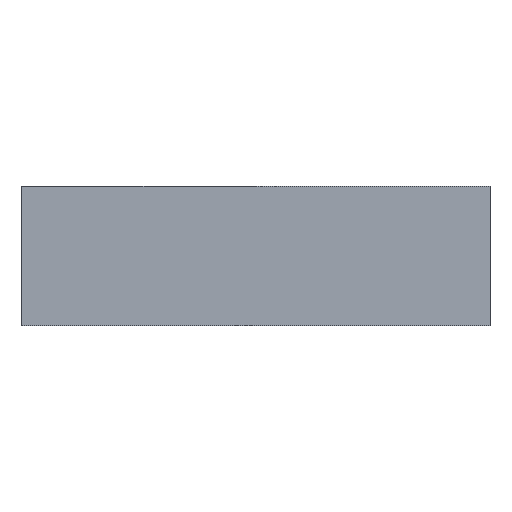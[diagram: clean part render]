
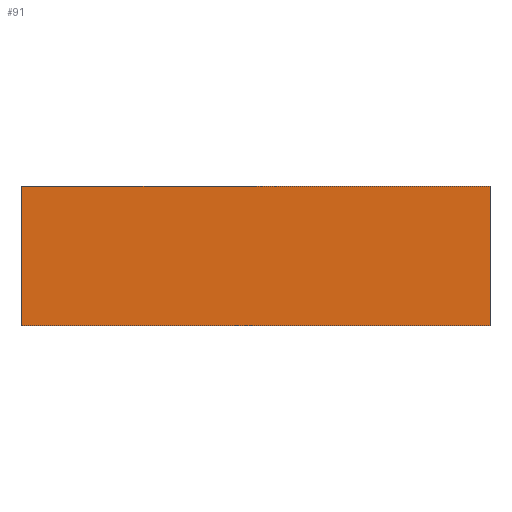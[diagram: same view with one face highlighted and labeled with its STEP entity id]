
A CAD part, front view. The second image highlights one B-rep face of the part: STEP entity #91.
In plain terms, the highlighted planar face has unit normal (0, -1, 0).
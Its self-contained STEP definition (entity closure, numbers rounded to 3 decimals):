
#2 = EDGE_CURVE ( 'NONE', #186, #188, #640, .T. ) ;
#14 = EDGE_CURVE ( 'NONE', #178, #190, #474, .T. ) ;
#32 = EDGE_CURVE ( 'NONE', #186, #178, #642, .T. ) ;
#70 = AXIS2_PLACEMENT_3D ( 'NONE', #185, #187, #189 ) ;
#79 = EDGE_CURVE ( 'NONE', #188, #190, #691, .T. ) ;
#91 = ADVANCED_FACE ( 'NONE', ( #454 ), #176, .F. ) ;
#137 = DIRECTION ( 'NONE',  ( 0., 0., -1. ) ) ;
#176 = PLANE ( 'NONE',  #70 ) ;
#178 = VERTEX_POINT ( 'NONE', #380 ) ;
#185 = CARTESIAN_POINT ( 'NONE',  ( -201., 0., 120. ) ) ;
#186 = VERTEX_POINT ( 'NONE', #386 ) ;
#187 = DIRECTION ( 'NONE',  ( 0., 1., 0. ) ) ;
#188 = VERTEX_POINT ( 'NONE', #389 ) ;
#189 = DIRECTION ( 'NONE',  ( -1., 0., 0. ) ) ;
#190 = VERTEX_POINT ( 'NONE', #388 ) ;
#210 = CARTESIAN_POINT ( 'NONE',  ( -201., 0., 0. ) ) ;
#212 = DIRECTION ( 'NONE',  ( 1., 0., 0. ) ) ;
#221 = DIRECTION ( 'NONE',  ( 0., 0., -1. ) ) ;
#237 = CARTESIAN_POINT ( 'NONE',  ( 201., 0., 120. ) ) ;
#313 = CARTESIAN_POINT ( 'NONE',  ( -201., 0., 120. ) ) ;
#320 = DIRECTION ( 'NONE',  ( 1., 0., 0. ) ) ;
#380 = CARTESIAN_POINT ( 'NONE',  ( 201., 0., 120. ) ) ;
#386 = CARTESIAN_POINT ( 'NONE',  ( -201., 0., 120. ) ) ;
#388 = CARTESIAN_POINT ( 'NONE',  ( 201., 0., 0. ) ) ;
#389 = CARTESIAN_POINT ( 'NONE',  ( -201., 0., 0. ) ) ;
#432 = CARTESIAN_POINT ( 'NONE',  ( -201., 0., 120. ) ) ;
#454 = FACE_OUTER_BOUND ( 'NONE', #627, .T. ) ;
#474 = LINE ( 'NONE', #237, #608 ) ;
#481 = ORIENTED_EDGE ( 'NONE', *, *, #2, .T. ) ;
#496 = ORIENTED_EDGE ( 'NONE', *, *, #79, .T. ) ;
#559 = ORIENTED_EDGE ( 'NONE', *, *, #14, .F. ) ;
#561 = ORIENTED_EDGE ( 'NONE', *, *, #32, .F. ) ;
#608 = VECTOR ( 'NONE', #137, 1000. ) ;
#627 = EDGE_LOOP ( 'NONE', ( #496, #559, #561, #481 ) ) ;
#640 = LINE ( 'NONE', #432, #714 ) ;
#642 = LINE ( 'NONE', #313, #643 ) ;
#643 = VECTOR ( 'NONE', #320, 1000. ) ;
#691 = LINE ( 'NONE', #210, #692 ) ;
#692 = VECTOR ( 'NONE', #212, 1000. ) ;
#714 = VECTOR ( 'NONE', #221, 1000. ) ;
